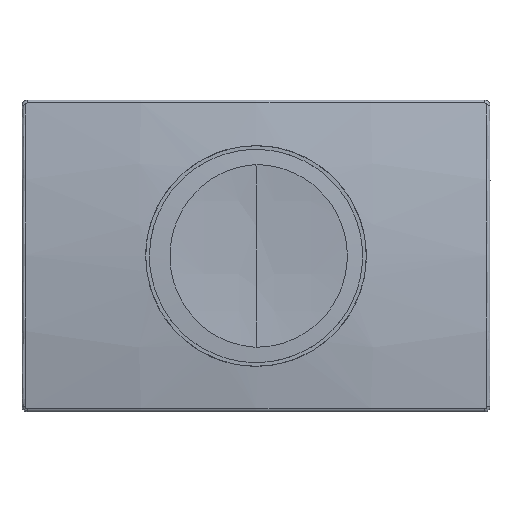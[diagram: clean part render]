
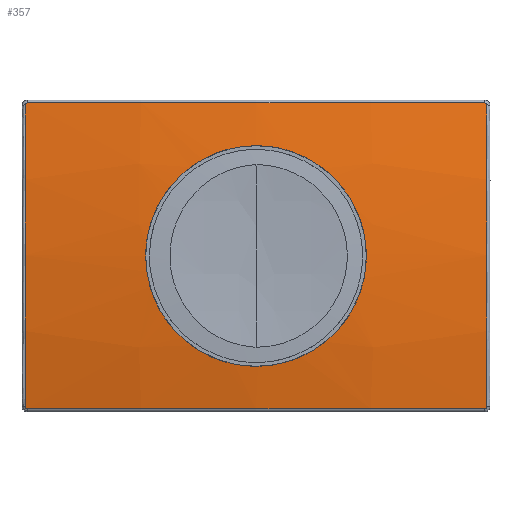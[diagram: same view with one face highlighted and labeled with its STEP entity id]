
A CAD part, front view. The second image highlights one B-rep face of the part: STEP entity #357.
In plain terms, the highlighted free-form (B-spline) face has degree [5, 4] with [6, 5] control points.
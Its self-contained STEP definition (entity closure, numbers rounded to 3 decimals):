
#41=B_SPLINE_SURFACE_WITH_KNOTS('',5,4,((#599,#600,#601,#602,#603),(#604,
#605,#606,#607,#608),(#609,#610,#611,#612,#613),(#614,#615,#616,#617,#618),
(#619,#620,#621,#622,#623),(#624,#625,#626,#627,#628)),.UNSPECIFIED.,.F.,
 .F.,.F.,(6,6),(5,5),(0.,1.),(0.,1.),
 .UNSPECIFIED.);
#52=FACE_BOUND('',#94,.T.);
#55=B_SPLINE_CURVE_WITH_KNOTS('',3,(#559,#560,#561,#562,#563,#564,#565,
#566,#567,#568,#569,#570,#571,#572,#573,#574,#575,#576,#577,#578,#579,#580,
#581,#582,#583,#584,#585,#586,#587,#588,#589,#590,#591,#592,#593,#594,#595,
#596,#597,#598),.UNSPECIFIED.,.T.,.F.,(4,2,2,2,2,2,2,2,2,2,2,2,2,2,2,2,
2,2,2,4),(0.,2.305,4.612,6.706,8.377,
9.902,11.574,13.743,15.888,18.102,
20.402,22.7,24.85,26.549,28.082,
29.742,31.872,34.005,35.296,36.558),
 .UNSPECIFIED.);
#67=FACE_OUTER_BOUND('',#93,.T.);
#93=EDGE_LOOP('',(#230,#231,#232,#233,#234,#235,#236,#237));
#94=EDGE_LOOP('',(#238));
#120=CIRCLE('',#404,464.478);
#121=CIRCLE('',#405,0.984);
#122=CIRCLE('',#406,818.535);
#123=CIRCLE('',#407,0.982);
#124=CIRCLE('',#408,463.924);
#125=CIRCLE('',#409,0.99);
#126=CIRCLE('',#410,825.524);
#127=CIRCLE('',#411,0.991);
#151=VERTEX_POINT('',#558);
#152=VERTEX_POINT('',#629);
#153=VERTEX_POINT('',#630);
#154=VERTEX_POINT('',#632);
#155=VERTEX_POINT('',#634);
#156=VERTEX_POINT('',#636);
#157=VERTEX_POINT('',#638);
#158=VERTEX_POINT('',#640);
#159=VERTEX_POINT('',#642);
#181=EDGE_CURVE('',#151,#151,#55,.T.);
#182=EDGE_CURVE('',#152,#153,#120,.T.);
#183=EDGE_CURVE('',#153,#154,#121,.T.);
#184=EDGE_CURVE('',#154,#155,#122,.T.);
#185=EDGE_CURVE('',#155,#156,#123,.T.);
#186=EDGE_CURVE('',#156,#157,#124,.T.);
#187=EDGE_CURVE('',#157,#158,#125,.T.);
#188=EDGE_CURVE('',#158,#159,#126,.T.);
#189=EDGE_CURVE('',#159,#152,#127,.T.);
#230=ORIENTED_EDGE('',*,*,#182,.T.);
#231=ORIENTED_EDGE('',*,*,#183,.T.);
#232=ORIENTED_EDGE('',*,*,#184,.T.);
#233=ORIENTED_EDGE('',*,*,#185,.T.);
#234=ORIENTED_EDGE('',*,*,#186,.T.);
#235=ORIENTED_EDGE('',*,*,#187,.T.);
#236=ORIENTED_EDGE('',*,*,#188,.T.);
#237=ORIENTED_EDGE('',*,*,#189,.T.);
#238=ORIENTED_EDGE('',*,*,#181,.F.);
#357=ADVANCED_FACE('',(#67,#52),#41,.T.);
#404=AXIS2_PLACEMENT_3D('',#631,#455,#456);
#405=AXIS2_PLACEMENT_3D('',#633,#457,#458);
#406=AXIS2_PLACEMENT_3D('',#635,#459,#460);
#407=AXIS2_PLACEMENT_3D('',#637,#461,#462);
#408=AXIS2_PLACEMENT_3D('',#639,#463,#464);
#409=AXIS2_PLACEMENT_3D('',#641,#465,#466);
#410=AXIS2_PLACEMENT_3D('',#643,#467,#468);
#411=AXIS2_PLACEMENT_3D('',#644,#469,#470);
#455=DIRECTION('center_axis',(-1.,0.,0.));
#456=DIRECTION('ref_axis',(0.,-0.992,-0.128));
#457=DIRECTION('center_axis',(0.139,-0.967,0.212));
#458=DIRECTION('ref_axis',(0.99,0.133,-0.043));
#459=DIRECTION('center_axis',(0.,0.,
-1.));
#460=DIRECTION('ref_axis',(0.143,-0.99,0.));
#461=DIRECTION('center_axis',(-0.147,-0.966,0.212));
#462=DIRECTION('ref_axis',(0.032,0.21,0.977));
#463=DIRECTION('center_axis',(1.,0.,0.));
#464=DIRECTION('ref_axis',(0.,-0.977,0.214));
#465=DIRECTION('center_axis',(-0.148,-0.981,-0.127));
#466=DIRECTION('ref_axis',(-0.989,0.147,0.022));
#467=DIRECTION('center_axis',(0.,0.,
1.));
#468=DIRECTION('ref_axis',(-0.15,-0.989,0.));
#469=DIRECTION('center_axis',(0.14,-0.982,-0.127));
#470=DIRECTION('ref_axis',(-0.022,0.125,-0.992));
#558=CARTESIAN_POINT('',(-58.,-22.306,0.));
#559=CARTESIAN_POINT('Ctrl Pts',(58.,-22.774,0.109));
#560=CARTESIAN_POINT('Ctrl Pts',(57.986,-22.445,7.784));
#561=CARTESIAN_POINT('Ctrl Pts',(56.448,-22.028,15.376));
#562=CARTESIAN_POINT('Ctrl Pts',(50.509,-21.1,29.526));
#563=CARTESIAN_POINT('Ctrl Pts',(46.162,-20.6,35.945));
#564=CARTESIAN_POINT('Ctrl Pts',(35.727,-19.717,46.218));
#565=CARTESIAN_POINT('Ctrl Pts',(29.921,-19.335,50.173));
#566=CARTESIAN_POINT('Ctrl Pts',(18.464,-18.814,55.263));
#567=CARTESIAN_POINT('Ctrl Pts',(13.078,-18.644,56.78));
#568=CARTESIAN_POINT('Ctrl Pts',(2.517,-18.465,58.168));
#569=CARTESIAN_POINT('Ctrl Pts',(-2.587,-18.444,58.165));
#570=CARTESIAN_POINT('Ctrl Pts',(-13.152,-18.538,56.764));
#571=CARTESIAN_POINT('Ctrl Pts',(-18.542,-18.665,55.238));
#572=CARTESIAN_POINT('Ctrl Pts',(-30.229,-19.103,50.024));
#573=CARTESIAN_POINT('Ctrl Pts',(-36.217,-19.453,45.874));
#574=CARTESIAN_POINT('Ctrl Pts',(-46.301,-20.243,35.654));
#575=CARTESIAN_POINT('Ctrl Pts',(-50.333,-20.673,29.691));
#576=CARTESIAN_POINT('Ctrl Pts',(-56.122,-21.508,16.39));
#577=CARTESIAN_POINT('Ctrl Pts',(-57.749,-21.902,9.133));
#578=CARTESIAN_POINT('Ctrl Pts',(-58.206,-22.568,-5.893));
#579=CARTESIAN_POINT('Ctrl Pts',(-56.92,-22.827,-13.52));
#580=CARTESIAN_POINT('Ctrl Pts',(-51.457,-23.186,-27.835));
#581=CARTESIAN_POINT('Ctrl Pts',(-47.336,-23.284,-34.379));
#582=CARTESIAN_POINT('Ctrl Pts',(-37.13,-23.387,-45.13));
#583=CARTESIAN_POINT('Ctrl Pts',(-31.277,-23.397,-49.367));
#584=CARTESIAN_POINT('Ctrl Pts',(-19.678,-23.412,-54.853));
#585=CARTESIAN_POINT('Ctrl Pts',(-14.229,-23.417,-56.512));
#586=CARTESIAN_POINT('Ctrl Pts',(-3.575,-23.443,-58.115));
#587=CARTESIAN_POINT('Ctrl Pts',(1.555,-23.463,-58.204));
#588=CARTESIAN_POINT('Ctrl Pts',(12.127,-23.519,-56.987));
#589=CARTESIAN_POINT('Ctrl Pts',(17.505,-23.556,-55.571));
#590=CARTESIAN_POINT('Ctrl Pts',(29.141,-23.638,-50.648));
#591=CARTESIAN_POINT('Ctrl Pts',(35.117,-23.68,-46.703));
#592=CARTESIAN_POINT('Ctrl Pts',(45.353,-23.683,-36.846));
#593=CARTESIAN_POINT('Ctrl Pts',(49.523,-23.642,-31.015));
#594=CARTESIAN_POINT('Ctrl Pts',(54.358,-23.456,-20.681));
#595=CARTESIAN_POINT('Ctrl Pts',(55.741,-23.359,-16.595));
#596=CARTESIAN_POINT('Ctrl Pts',(57.559,-23.107,-8.287));
#597=CARTESIAN_POINT('Ctrl Pts',(58.008,-22.954,-4.094));
#598=CARTESIAN_POINT('Ctrl Pts',(58.,-22.774,0.109));
#599=CARTESIAN_POINT('Ctrl Pts',(122.291,-12.511,-80.257));
#600=CARTESIAN_POINT('Ctrl Pts',(61.555,-21.353,-80.257));
#601=CARTESIAN_POINT('Ctrl Pts',(-0.06,-24.173,
-80.257));
#602=CARTESIAN_POINT('Ctrl Pts',(-61.65,-20.842,-80.257));
#603=CARTESIAN_POINT('Ctrl Pts',(-122.311,-11.498,-80.257));
#604=CARTESIAN_POINT('Ctrl Pts',(122.906,-16.617,-48.197));
#605=CARTESIAN_POINT('Ctrl Pts',(61.864,-25.504,-48.197));
#606=CARTESIAN_POINT('Ctrl Pts',(-0.061,-28.34,
-48.197));
#607=CARTESIAN_POINT('Ctrl Pts',(-61.96,-24.994,-48.197));
#608=CARTESIAN_POINT('Ctrl Pts',(-122.927,-15.604,-48.197));
#609=CARTESIAN_POINT('Ctrl Pts',(123.112,-17.992,-15.78));
#610=CARTESIAN_POINT('Ctrl Pts',(61.968,-26.895,-15.78));
#611=CARTESIAN_POINT('Ctrl Pts',(-0.061,-29.736,-15.78));
#612=CARTESIAN_POINT('Ctrl Pts',(-62.064,-26.385,-15.78));
#613=CARTESIAN_POINT('Ctrl Pts',(-123.133,-16.979,-15.78));
#614=CARTESIAN_POINT('Ctrl Pts',(122.903,-16.596,16.677));
#615=CARTESIAN_POINT('Ctrl Pts',(61.863,-25.483,16.677));
#616=CARTESIAN_POINT('Ctrl Pts',(-0.061,-28.319,
16.677));
#617=CARTESIAN_POINT('Ctrl Pts',(-61.958,-24.973,16.677));
#618=CARTESIAN_POINT('Ctrl Pts',(-122.924,-15.583,16.677));
#619=CARTESIAN_POINT('Ctrl Pts',(122.281,-12.442,48.851));
#620=CARTESIAN_POINT('Ctrl Pts',(61.55,-21.283,48.851));
#621=CARTESIAN_POINT('Ctrl Pts',(-0.06,-24.104,
48.851));
#622=CARTESIAN_POINT('Ctrl Pts',(-61.645,-20.773,48.851));
#623=CARTESIAN_POINT('Ctrl Pts',(-122.301,-11.43,48.851));
#624=CARTESIAN_POINT('Ctrl Pts',(121.256,-5.599,80.429));
#625=CARTESIAN_POINT('Ctrl Pts',(61.034,-14.364,80.429));
#626=CARTESIAN_POINT('Ctrl Pts',(-0.06,-17.158,
80.429));
#627=CARTESIAN_POINT('Ctrl Pts',(-61.128,-13.854,80.429));
#628=CARTESIAN_POINT('Ctrl Pts',(-121.275,-4.586,80.429));
#629=CARTESIAN_POINT('',(121.283,-12.787,-79.253));
#630=CARTESIAN_POINT('',(121.281,-5.817,79.424));
#631=CARTESIAN_POINT('Origin',(121.162,447.896,-19.999));
#632=CARTESIAN_POINT('',(120.279,-5.741,80.428));
#633=CARTESIAN_POINT('Origin',(120.307,-5.948,79.466));
#634=CARTESIAN_POINT('',(-120.295,-4.737,80.428));
#635=CARTESIAN_POINT('Origin',(3.371,804.403,80.428));
#636=CARTESIAN_POINT('',(-121.298,-4.805,79.424));
#637=CARTESIAN_POINT('Origin',(-120.327,-4.943,79.469));
#638=CARTESIAN_POINT('',(-121.3,-11.784,-79.253));
#639=CARTESIAN_POINT('Origin',(-121.171,448.34,-19.999));
#640=CARTESIAN_POINT('',(-120.297,-11.806,-80.257));
#641=CARTESIAN_POINT('Origin',(-120.321,-11.929,-79.275));
#642=CARTESIAN_POINT('',(120.281,-12.801,-80.257));
#643=CARTESIAN_POINT('Origin',(3.371,804.403,-80.257));
#644=CARTESIAN_POINT('Origin',(120.302,-12.925,-79.274));
